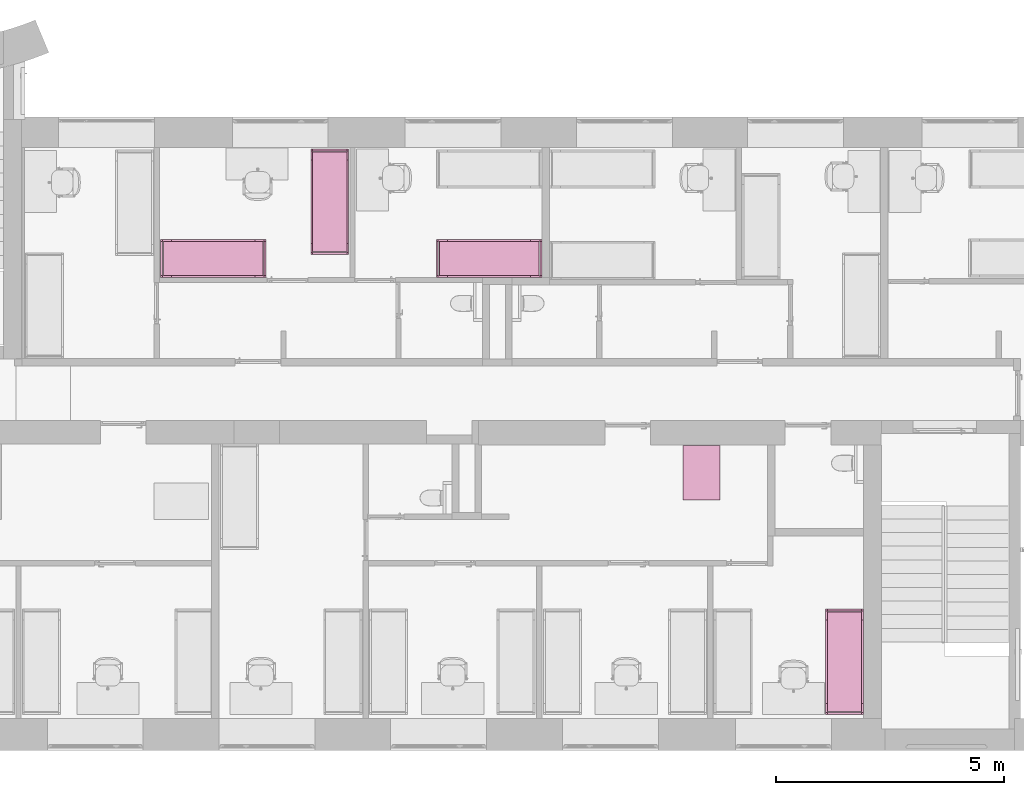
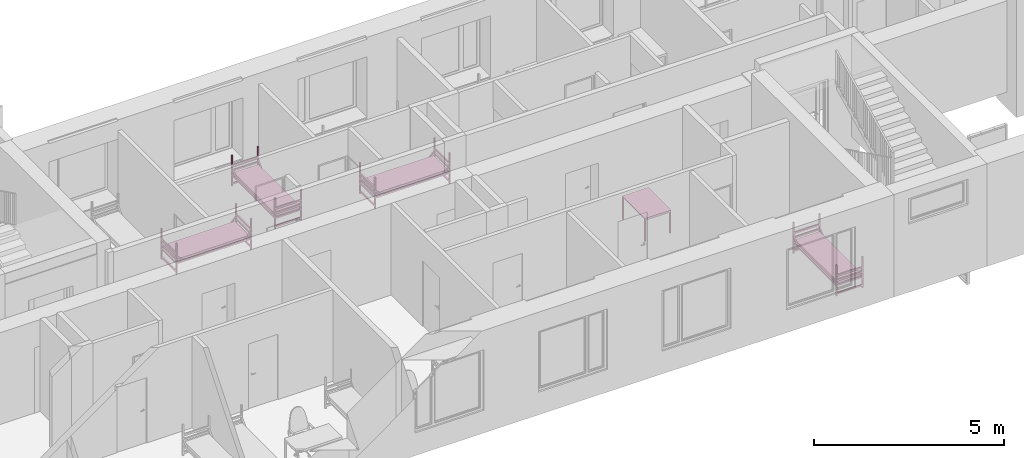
# One storey, part 38 of 46: 5 furnishings.
"""IFC2X3 building model written with IfcOpenShell, lengths in millimetres."""

from ifc_helpers import new_model, entity, si_unit, converted_unit, derived_unit, direction, frame, frame_2d, origin, origin_2d_with_axis, place, context, subcontext, project, spatial, polyline, circle_curve, parameter, trimmed, segment, composite_curve, rectangle, circle, outline, extrude, source, transform, mapped, material, material_list, type_object, type_shapes, element, save


model = new_model("IFC2X3")

# Units and contexts
model_context = context("Model", 3, precision=0.01, world=origin(), true_north=direction((6.12303176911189e-17, 1.0)))
body_context = subcontext(model_context, "Body", "Model", "MODEL_VIEW")
ifc_project = project(units=[si_unit("LENGTHUNIT", "METRE", prefix="MILLI"), si_unit("AREAUNIT", "SQUARE_METRE"), si_unit("VOLUMEUNIT", "CUBIC_METRE"), converted_unit("PLANEANGLEUNIT", "DEGREE", entity("IfcRatioMeasure", 0.0174532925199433), si_unit("PLANEANGLEUNIT", "RADIAN"), dimensions=[0, 0, 0, 0, 0, 0, 0]), si_unit("MASSUNIT", "GRAM", prefix="KILO"), derived_unit("MASSDENSITYUNIT", [(si_unit("MASSUNIT", "GRAM", prefix="KILO"), 1), (si_unit("LENGTHUNIT", "METRE"), -3)]), si_unit("TIMEUNIT", "SECOND"), si_unit("FREQUENCYUNIT", "HERTZ"), si_unit("THERMODYNAMICTEMPERATUREUNIT", "DEGREE_CELSIUS"), derived_unit("THERMALTRANSMITTANCEUNIT", [(si_unit("MASSUNIT", "GRAM", prefix="KILO"), 1), (si_unit("THERMODYNAMICTEMPERATUREUNIT", "KELVIN"), -1), (si_unit("TIMEUNIT", "SECOND"), -3)]), derived_unit("VOLUMETRICFLOWRATEUNIT", [(si_unit("LENGTHUNIT", "METRE"), 3), (si_unit("TIMEUNIT", "SECOND"), -1)]), si_unit("ELECTRICCURRENTUNIT", "AMPERE"), si_unit("ELECTRICVOLTAGEUNIT", "VOLT"), si_unit("POWERUNIT", "WATT"), si_unit("FORCEUNIT", "NEWTON", prefix="KILO"), si_unit("ILLUMINANCEUNIT", "LUX"), si_unit("LUMINOUSFLUXUNIT", "LUMEN"), si_unit("LUMINOUSINTENSITYUNIT", "CANDELA"), derived_unit("USERDEFINED", [(si_unit("MASSUNIT", "GRAM", prefix="KILO"), -1), (si_unit("LENGTHUNIT", "METRE"), -2), (si_unit("TIMEUNIT", "SECOND"), 3), (si_unit("LUMINOUSFLUXUNIT", "LUMEN"), 1)]), derived_unit("LINEARVELOCITYUNIT", [(si_unit("LENGTHUNIT", "METRE"), 1), (si_unit("TIMEUNIT", "SECOND"), -1)]), si_unit("PRESSUREUNIT", "PASCAL"), derived_unit("USERDEFINED", [(si_unit("LENGTHUNIT", "METRE"), -2), (si_unit("MASSUNIT", "GRAM", prefix="KILO"), 1), (si_unit("TIMEUNIT", "SECOND"), -2)]), derived_unit("LINEARFORCEUNIT", [(si_unit("MASSUNIT", "GRAM", prefix="KILO"), 1), (si_unit("LENGTHUNIT", "METRE"), 1), (si_unit("TIMEUNIT", "SECOND"), -2), (si_unit("LENGTHUNIT", "METRE"), -1)]), derived_unit("PLANARFORCEUNIT", [(si_unit("MASSUNIT", "GRAM", prefix="KILO"), 1), (si_unit("LENGTHUNIT", "METRE"), 1), (si_unit("TIMEUNIT", "SECOND"), -2), (si_unit("LENGTHUNIT", "METRE"), -2)])], contexts=[model_context])

# Site, building, storey, space
site_placement = place(None, origin())
site = spatial("IfcSite", under=ifc_project, at=site_placement, Name="Default", CompositionType="ELEMENT")
building_placement = place(site_placement, origin())
building = spatial("IfcBuilding", under=site, at=building_placement, Name="SMA ARH", CompositionType="ELEMENT")
storey_placement = place(building_placement, origin())
storey = spatial("IfcBuildingStorey", under=building, at=storey_placement, Name="1 Korrus", CompositionType="ELEMENT", Elevation=0.0)
space_1_placement = place(storey_placement, origin())
space_1 = spatial("IfcSpace", under=storey, at=space_1_placement, Name="1-6", CompositionType="ELEMENT", InteriorOrExteriorSpace="INTERNAL")

# Furnishing
ifc_material_1 = material(Name="Madrats")
furniture_type_1 = type_object("IfcFurnitureType", Name="Kasarmu voodi ühekordne 2308x830:Kasarmu voodi ühekordne 2308x830", material=ifc_material_1)
shared_shape_1 = source(origin(), body_context, "Body", "SweptSolid", [
    extrude(rectangle(XDim=39.9999999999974, YDim=750.000000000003, at=frame_2d((-1.35003119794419e-13, -2.8421709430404e-14), x_axis=(1.0, 0.0))), frame((1.68638457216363, -1226.7969571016, 55.0), z_axis=(0.0, 0.0, 1.0), x_axis=(0.0, -1.0, 0.0)), (0.0, 0.0, 1.0), 49.9999999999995),
    extrude(rectangle(XDim=39.9999999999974, YDim=750.000000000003, at=frame_2d((-1.35003119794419e-13, -2.8421709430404e-14), x_axis=(1.0, 0.0))), frame((1.68638457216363, -1226.7969571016, 325.0), z_axis=(0.0, 0.0, 1.0), x_axis=(0.0, -1.0, 0.0)), (0.0, 0.0, 1.0), 49.9999999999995),
    extrude(rectangle(XDim=39.9999999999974, YDim=750.000000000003, at=frame_2d((-1.35003119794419e-13, -2.8421709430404e-14), x_axis=(1.0, 0.0))), frame((1.68638457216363, -1226.7969571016, 475.0), z_axis=(0.0, 0.0, 1.0), x_axis=(0.0, -1.0, 0.0)), (0.0, 0.0, 1.0), 49.9999999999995),
    extrude(rectangle(XDim=39.9999999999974, YDim=750.000000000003, at=frame_2d((-1.35003119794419e-13, -2.8421709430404e-14), x_axis=(1.0, 0.0))), frame((1.68638457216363, -1226.7969571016, 625.0), z_axis=(0.0, 0.0, 1.0), x_axis=(0.0, -1.0, 0.0)), (0.0, 0.0, 1.0), 50.0000000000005),
    extrude(rectangle(XDim=39.9999999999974, YDim=750.000000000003, at=frame_2d((1.35003119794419e-13, -2.8421709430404e-14), x_axis=(1.0, 0.0))), frame((1.68638457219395, 1041.2030428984, 55.0), z_axis=(0.0, 0.0, 1.0), x_axis=(0.0, -1.0, 0.0)), (0.0, 0.0, 1.0), 50.0000000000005),
    extrude(rectangle(XDim=39.9999999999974, YDim=750.000000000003, at=frame_2d((1.35003119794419e-13, -2.8421709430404e-14), x_axis=(1.0, 0.0))), frame((1.68638457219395, 1041.2030428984, 325.0), z_axis=(0.0, 0.0, 1.0), x_axis=(0.0, -1.0, 0.0)), (0.0, 0.0, 1.0), 50.0000000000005),
    extrude(rectangle(XDim=39.9999999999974, YDim=750.000000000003, at=frame_2d((1.35003119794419e-13, -2.8421709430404e-14), x_axis=(1.0, 0.0))), frame((1.68638457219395, 1041.2030428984, 475.0), z_axis=(0.0, 0.0, 1.0), x_axis=(0.0, -1.0, 0.0)), (0.0, 0.0, 1.0), 50.0000000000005),
    extrude(rectangle(XDim=39.9999999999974, YDim=750.000000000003, at=frame_2d((1.35003119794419e-13, -2.8421709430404e-14), x_axis=(1.0, 0.0))), frame((1.68638457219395, 1041.2030428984, 625.0), z_axis=(0.0, 0.0, 1.0), x_axis=(0.0, -1.0, 0.0)), (0.0, 0.0, 1.0), 49.9999999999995),
    extrude(outline(composite_curve([segment(trimmed(circle_curve(frame_2d((1085.0, -40.0), x_axis=(1.0, 0.0)), 10.0), [parameter(270.0)], [parameter(0.0)], True, "PARAMETER"), True, "CONTINUOUS"), segment(polyline([(1095.0, -40.0), (1095.0, 40.0)]), True, "CONTINUOUS"), segment(trimmed(circle_curve(frame_2d((1085.0, 40.0), x_axis=(1.0, 0.0)), 10.0), [parameter(0.0)], [parameter(90.0000000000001)], True, "PARAMETER"), True, "CONTINUOUS"), segment(polyline([(1085.0, 50.0), (-1085.0, 50.0)]), True, "CONTINUOUS"), segment(trimmed(circle_curve(frame_2d((-1085.0, 40.0), x_axis=(1.0, 0.0)), 10.0), [parameter(90.0000000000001)], [parameter(180.0)], True, "PARAMETER"), True, "CONTINUOUS"), segment(polyline([(-1095.0, 40.0), (-1095.0, -40.0)]), True, "CONTINUOUS"), segment(trimmed(circle_curve(frame_2d((-1085.0, -40.0), x_axis=(1.0, 0.0)), 10.0), [parameter(180.0)], [parameter(270.0)], True, "PARAMETER"), True, "CONTINUOUS"), segment(polyline([(-1085.0, -50.0), (1085.0, -50.0)]), True, "CONTINUOUS")], self_intersect=False)), frame((-373.313615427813, -92.7969571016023, 405.0), z_axis=(1.0, 0.0, 0.0), x_axis=(0.0, -1.0, 0.0)), (0.0, 0.0, 1.0), 750.000000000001),
    extrude(outline(polyline([(-1114.0, -100.0), (1114.0, -100.0), (1114.0, -50.0), (961.59199141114, -50.0), (1114.0, 100.0), (1114.0, 150.0), (910.789321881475, -50.0), (-910.789321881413, -50.0), (-1114.0, 150.0), (-1114.0, 100.0), (-961.591991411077, -50.0), (-1114.0, -50.0), (-1114.0, -100.0)])), frame((-413.313615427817, -92.7969571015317, 430.0), z_axis=(1.0, 0.0, 0.0), x_axis=(0.0, 1.0, 0.0)), (0.0, 0.0, 1.0), 39.9999999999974),
    extrude(outline(polyline([(-1114.0, -100.0), (1114.0, -100.0), (1114.0, -50.0), (961.591991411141, -50.0), (1114.0, 100.0), (1114.0, 150.0), (910.789321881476, -50.0), (-910.789321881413, -50.0), (-1114.0, 150.0), (-1114.0, 100.0), (-961.591991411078, -50.0), (-1114.0, -50.0), (-1114.0, -100.0)])), frame((376.686384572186, -92.796957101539, 430.0), z_axis=(1.0, 0.0, 0.0), x_axis=(0.0, 1.0, 0.0)), (0.0, 0.0, 1.0), 39.9999999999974),
    extrude(rectangle(XDim=39.9999999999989, YDim=39.9999999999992, at=frame_2d((-6.75015598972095e-14, 0.0), x_axis=(1.0, 0.0))), frame((396.686384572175, -1226.79695710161, 0.0), z_axis=(0.0, 0.0, 1.0), x_axis=(0.0, 1.0, 0.0)), (0.0, 0.0, 1.0), 995.0),
    extrude(rectangle(XDim=39.9999999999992, YDim=39.9999999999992, at=frame_2d((-1.35003119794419e-13, 0.0), x_axis=(1.0, 0.0))), frame((396.686384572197, 1041.20304289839, 0.0), z_axis=(0.0, 0.0, 1.0), x_axis=(0.0, 1.0, 0.0)), (0.0, 0.0, 1.0), 995.0),
    extrude(rectangle(XDim=40.0000000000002, YDim=39.9999999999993, at=frame_2d((-1.35003119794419e-13, 0.0), x_axis=(1.0, 0.0))), frame((-393.313615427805, 1041.2030428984, 0.0), z_axis=(0.0, 0.0, 1.0), x_axis=(0.0, 1.0, 0.0)), (0.0, 0.0, 1.0), 995.0),
    extrude(rectangle(XDim=39.9999999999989, YDim=39.9999999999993, at=frame_2d((-6.75015598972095e-14, 0.0), x_axis=(1.0, 0.0))), frame((-393.313615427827, -1226.7969571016, 0.0), z_axis=(0.0, 0.0, 1.0), x_axis=(0.0, 1.0, 0.0)), (0.0, 0.0, 1.0), 995.0),
])
type_shapes(furniture_type_1, [shared_shape_1])
furnishing_1_placement = place(space_1_placement, frame((30013.3136154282, 1336.79695710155, 0.0)))
element("IfcFurnishingElement", 1, at=furnishing_1_placement, inside=space_1, type_object=furniture_type_1, material=ifc_material_1, Name="Kasarmu voodi ühekordne 2308x830:Kasarmu voodi ühekordne 2308x830", ObjectType="Kasarmu voodi ühekordne 2308x830:Kasarmu voodi ühekordne 2308x830", context=body_context, shape_type="MappedRepresentation", body=[
    mapped(shared_shape_1, transform((0.0, 0.0, 0.0), scale=1.0)),
])

# Space
space_2_placement = place(storey_placement, origin())
space_2 = spatial("IfcSpace", under=storey, at=space_2_placement, Name="1-23", CompositionType="ELEMENT", InteriorOrExteriorSpace="INTERNAL")

# Furnishing
furnishing_2_placement = place(space_2_placement, frame((18742.3136154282, 11408.7969571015, 0.0)))
element("IfcFurnishingElement", 2, at=furnishing_2_placement, inside=space_2, type_object=furniture_type_1, material=ifc_material_1, Name="Kasarmu voodi ühekordne 2308x830:Kasarmu voodi ühekordne 2308x830", ObjectType="Kasarmu voodi ühekordne 2308x830:Kasarmu voodi ühekordne 2308x830", context=body_context, shape_type="MappedRepresentation", body=[
    mapped(shared_shape_1, transform((0.0, 0.0, 0.0), scale=1.0)),
])

# Space
space_3_placement = place(storey_placement, origin())
space_3 = spatial("IfcSpace", under=storey, at=space_3_placement, Name="1-24", CompositionType="ELEMENT", InteriorOrExteriorSpace="INTERNAL")

# Furnishings
furnishing_3_placement = place(space_3_placement, frame((22141.2030428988, 10071.3136154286, 0.0), z_axis=(0.0, 0.0, 1.0), x_axis=(0.0, 1.0, 0.0)))
element("IfcFurnishingElement", 3, at=furnishing_3_placement, inside=space_3, type_object=furniture_type_1, material=ifc_material_1, Name="Kasarmu voodi ühekordne 2308x830:Kasarmu voodi ühekordne 2308x830", ObjectType="Kasarmu voodi ühekordne 2308x830:Kasarmu voodi ühekordne 2308x830", context=body_context, shape_type="MappedRepresentation", body=[
    mapped(shared_shape_1, transform((0.0, 0.0, 0.0), scale=1.0)),
])
furniture_type_2 = type_object("IfcFurnitureType", Name="Kasarmu voodi ühekordne 2308x830:Kasarmu voodi ühekordne 2308x830", material=ifc_material_1)
shared_shape_2 = source(origin(), body_context, "Body", "SweptSolid", [
    extrude(rectangle(XDim=750.000000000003, YDim=39.9999999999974, at=frame_2d((0.0, 1.35003119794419e-13), x_axis=(1.0, 0.0))), frame((1.68638457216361, 1226.7969571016, 55.0)), (0.0, 0.0, 1.0), 49.9999999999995),
    extrude(rectangle(XDim=750.000000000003, YDim=39.9999999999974, at=frame_2d((0.0, 1.35003119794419e-13), x_axis=(1.0, 0.0))), frame((1.68638457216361, 1226.7969571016, 325.0)), (0.0, 0.0, 1.0), 49.9999999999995),
    extrude(rectangle(XDim=750.000000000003, YDim=39.9999999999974, at=frame_2d((0.0, 1.35003119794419e-13), x_axis=(1.0, 0.0))), frame((1.68638457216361, 1226.7969571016, 475.0)), (0.0, 0.0, 1.0), 49.9999999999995),
    extrude(rectangle(XDim=750.000000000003, YDim=39.9999999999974, at=frame_2d((0.0, 1.35003119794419e-13), x_axis=(1.0, 0.0))), frame((1.68638457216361, 1226.7969571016, 625.0)), (0.0, 0.0, 1.0), 50.0000000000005),
    extrude(rectangle(XDim=750.000000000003, YDim=39.9999999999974, at=origin_2d_with_axis()), frame((1.68638457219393, -1041.2030428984, 55.0)), (0.0, 0.0, 1.0), 50.0000000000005),
    extrude(rectangle(XDim=750.000000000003, YDim=39.9999999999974, at=origin_2d_with_axis()), frame((1.68638457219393, -1041.2030428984, 325.0)), (0.0, 0.0, 1.0), 50.0000000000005),
    extrude(rectangle(XDim=750.000000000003, YDim=39.9999999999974, at=origin_2d_with_axis()), frame((1.68638457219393, -1041.2030428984, 475.0)), (0.0, 0.0, 1.0), 50.0000000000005),
    extrude(rectangle(XDim=750.000000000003, YDim=39.9999999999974, at=origin_2d_with_axis()), frame((1.68638457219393, -1041.2030428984, 625.0)), (0.0, 0.0, 1.0), 49.9999999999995),
    extrude(outline(composite_curve([segment(polyline([(-1085.0, -50.0), (1085.0, -50.0)]), True, "CONTINUOUS"), segment(trimmed(circle_curve(frame_2d((1085.0, -40.0), x_axis=(-1.0, 0.0)), 10.0), [parameter(90.0000000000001)], [parameter(180.0)], True, "PARAMETER"), True, "CONTINUOUS"), segment(polyline([(1095.0, -40.0), (1095.0, 40.0)]), True, "CONTINUOUS"), segment(trimmed(circle_curve(frame_2d((1085.0, 40.0), x_axis=(-1.0, 0.0)), 10.0), [parameter(180.0)], [parameter(270.0)], True, "PARAMETER"), True, "CONTINUOUS"), segment(polyline([(1085.0, 50.0), (-1085.0, 50.0)]), True, "CONTINUOUS"), segment(trimmed(circle_curve(frame_2d((-1085.0, 40.0), x_axis=(-1.0, 0.0)), 10.0), [parameter(270.0)], [parameter(0.0)], True, "PARAMETER"), True, "CONTINUOUS"), segment(polyline([(-1095.0, 40.0), (-1095.0, -40.0)]), True, "CONTINUOUS"), segment(trimmed(circle_curve(frame_2d((-1085.0, -40.0), x_axis=(-1.0, 0.0)), 10.0), [parameter(0.0)], [parameter(90.0000000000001)], True, "PARAMETER"), True, "CONTINUOUS")], self_intersect=False)), frame((-373.313615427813, 92.7969571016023, 405.0), z_axis=(1.0, 0.0, 0.0), x_axis=(0.0, -1.0, 0.0)), (0.0, 0.0, 1.0), 750.000000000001),
    extrude(outline(polyline([(-100.0, -1114.0), (-50.0, -1114.0), (-50.0, -961.591991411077), (100.0, -1114.0), (150.0, -1114.0), (-50.0, -910.789321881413), (-50.0, 910.789321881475), (150.0, 1114.0), (100.0, 1114.0), (-50.0, 961.591991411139), (-50.0, 1114.0), (-100.0, 1114.0), (-100.0, -1114.0)])), frame((-413.313615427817, 92.7969571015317, 430.0), z_axis=(1.0, 0.0, 0.0), x_axis=(0.0, 0.0, 1.0)), (0.0, 0.0, 1.0), 39.9999999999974),
    extrude(outline(polyline([(-100.0, -1114.0), (-50.0, -1114.0), (-50.0, -961.591991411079), (100.0, -1114.0), (150.0, -1114.0), (-50.0, -910.789321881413), (-50.0, 910.789321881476), (150.0, 1114.0), (100.0, 1114.0), (-50.0, 961.591991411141), (-50.0, 1114.0), (-100.0, 1114.0), (-100.0, -1114.0)])), frame((376.686384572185, 92.796957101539, 430.0), z_axis=(1.0, 0.0, 0.0), x_axis=(0.0, 0.0, 1.0)), (0.0, 0.0, 1.0), 39.9999999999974),
    extrude(rectangle(XDim=39.9999999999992, YDim=39.9999999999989, at=frame_2d((0.0, -6.75015598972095e-14), x_axis=(1.0, 0.0))), frame((396.686384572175, 1226.79695710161, 0.0), z_axis=(0.0, 0.0, 1.0), x_axis=(-1.0, 0.0, 0.0)), (0.0, 0.0, 1.0), 995.0),
    extrude(rectangle(XDim=39.9999999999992, YDim=39.9999999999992, at=origin_2d_with_axis()), frame((396.686384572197, -1041.20304289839, 0.0), z_axis=(0.0, 0.0, 1.0), x_axis=(-1.0, 0.0, 0.0)), (0.0, 0.0, 1.0), 995.0),
    extrude(rectangle(XDim=39.9999999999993, YDim=40.0000000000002, at=origin_2d_with_axis()), frame((-393.313615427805, -1041.2030428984, 0.0), z_axis=(0.0, 0.0, 1.0), x_axis=(-1.0, 0.0, 0.0)), (0.0, 0.0, 1.0), 995.0),
    extrude(rectangle(XDim=39.9999999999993, YDim=39.9999999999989, at=frame_2d((0.0, -6.75015598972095e-14), x_axis=(1.0, 0.0))), frame((-393.313615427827, 1226.7969571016, 0.0), z_axis=(0.0, 0.0, 1.0), x_axis=(-1.0, 0.0, 0.0)), (0.0, 0.0, 1.0), 995.0),
])
type_shapes(furniture_type_2, [shared_shape_2])
furnishing_4_placement = place(space_2_placement, frame((16286.796957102, 10071.3136154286, 0.0), z_axis=(0.0, 0.0, 1.0), x_axis=(0.0, 1.0, 0.0)))
element("IfcFurnishingElement", 4, at=furnishing_4_placement, inside=space_2, type_object=furniture_type_2, material=ifc_material_1, Name="Kasarmu voodi ühekordne 2308x830:Kasarmu voodi ühekordne 2308x830", ObjectType="Kasarmu voodi ühekordne 2308x830:Kasarmu voodi ühekordne 2308x830", context=body_context, shape_type="MappedRepresentation", body=[
    mapped(shared_shape_2, transform((0.0, 0.0, 0.0), scale=1.0)),
])

# Space
space_4_placement = place(storey_placement, origin())
space_4 = spatial("IfcSpace", under=storey, at=space_4_placement, Name="1-10", CompositionType="ELEMENT", InteriorOrExteriorSpace="INTERNAL")

# Furnishing
ifc_material_2 = material(Name="Metal - Stud Layer")
ifc_material_3 = material(Name="<Unnamed>")
ifc_material_list = material_list([ifc_material_2, ifc_material_3])
furniture_type_3 = type_object("IfcFurnitureType", Name="laud_1200x800:laud_1200x800", material=ifc_material_list)
shared_shape_3 = source(origin(), body_context, "Body", "SweptSolid", [
    extrude(rectangle(XDim=800.0, YDim=1200.0, at=origin_2d_with_axis()), frame((-150.0, 550.0, 720.0), z_axis=(0.0, 0.0, 1.0), x_axis=(-1.0, 0.0, 0.0)), (0.0, 0.0, 1.0), 29.9999999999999),
    extrude(outline(polyline([(-400.0, -365.0), (400.0, -365.0), (400.0, 345.0), (360.0, 345.0), (360.0, -325.0), (-360.0, -325.0), (-360.0, 345.0), (-400.0, 345.0), (-400.0, -365.0)])), frame((-150.0, -50.0, 355.0), z_axis=(0.0, 1.0, 0.0), x_axis=(1.0, 0.0, 0.0)), (0.0, 0.0, 1.0), 40.0000000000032),
    extrude(outline(polyline([(-400.0, -365.0), (400.0, -365.0), (400.0, 345.0), (360.0, 345.0), (360.0, -325.0), (-360.0, -325.0), (-360.0, 345.0), (-400.0, 345.0), (-400.0, -365.0)])), frame((-150.0, 1110.0, 355.0), z_axis=(0.0, 1.0, 0.0), x_axis=(1.0, 0.0, 0.0)), (0.0, 0.0, 1.0), 40.0000000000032),
    extrude(circle(Radius=15.0, at=frame_2d((0.0, 5.07593966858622e-14), x_axis=(1.0, 0.0))), frame((-529.847171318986, -29.9550233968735, 0.0)), (0.0, 0.0, 1.0), 10.0),
    extrude(circle(Radius=15.0, at=origin_2d_with_axis()), frame((-529.847171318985, 1129.95502339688, 0.0)), (0.0, 0.0, 1.0), 10.0),
    extrude(circle(Radius=15.0, at=origin_2d_with_axis()), frame((230.152828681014, -29.9550233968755, 0.0)), (0.0, 0.0, 1.0), 10.0),
    extrude(circle(Radius=15.0, at=origin_2d_with_axis()), frame((230.152828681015, 1129.95502339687, 0.0)), (0.0, 0.0, 1.0), 10.0),
])
type_shapes(furniture_type_3, [shared_shape_3])
furnishing_5_placement = place(space_4_placement, frame((27034.0, 4828.49999999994, 0.0)))
element("IfcFurnishingElement", 5, at=furnishing_5_placement, inside=space_4, type_object=furniture_type_3, material=ifc_material_2, Name="laud_1200x800:laud_1200x800", ObjectType="laud_1200x800:laud_1200x800", context=body_context, shape_type="MappedRepresentation", body=[
    mapped(shared_shape_3, transform((0.0, 0.0, 0.0), scale=1.0)),
])

save(model, "model.ifc")
